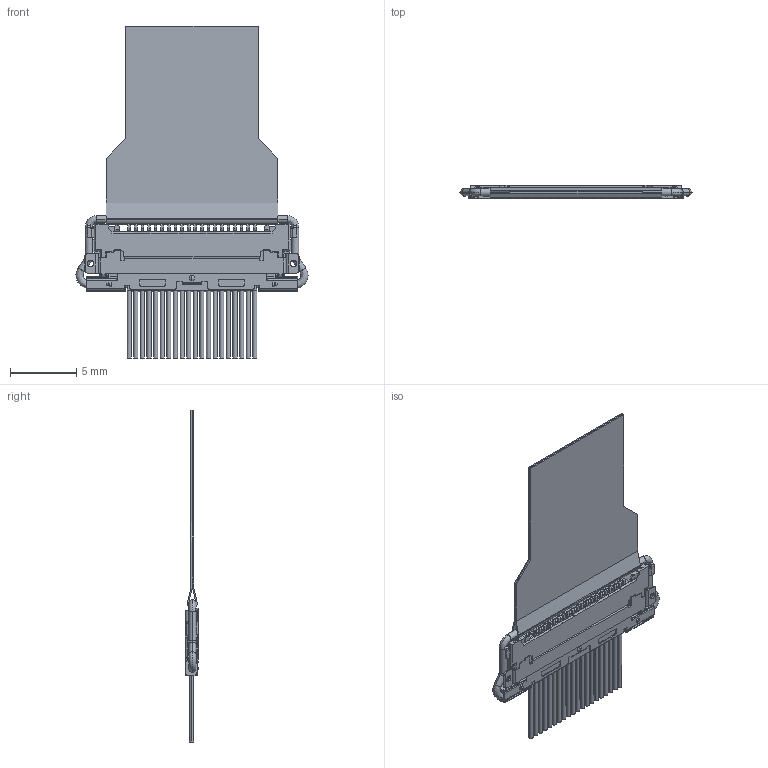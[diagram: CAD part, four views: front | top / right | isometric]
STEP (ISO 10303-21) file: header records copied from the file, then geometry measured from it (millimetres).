
FILE_DESCRIPTION (( 'STEP AP203' ), '1' );
FILE_NAME ('20455-A20E-x2+20453-020T-x1.STEP', '2014-08-01T13:19:44', ( '' ), ( '' ), 'SwSTEP 2.0', 'SolidWorks 2011', '' );
FILE_SCHEMA (( 'CONFIG_CONTROL_DESIGN' ));
Products named in the file (1): 20455-A20E-x2+20453-020T-x1
Bounding box: 17.55 x 1 x 25.11 mm (x, y, z)
Volume: 111.4 mm3; surface area: 1041.4 mm2
Topology: 1 solids, 2 shells, 1586 faces, 4440 edges, 2899 vertices
Faces by surface type: plane 984, cylinder 510, bspline 58, cone 34
Entity records: 52351 total; most frequent: CARTESIAN_POINT 11166, ORIENTED_EDGE 8868, DIRECTION 8306, EDGE_CURVE 4434, VECTOR 3196, LINE 3196, VERTEX_POINT 2899, AXIS2_PLACEMENT_3D 2555
